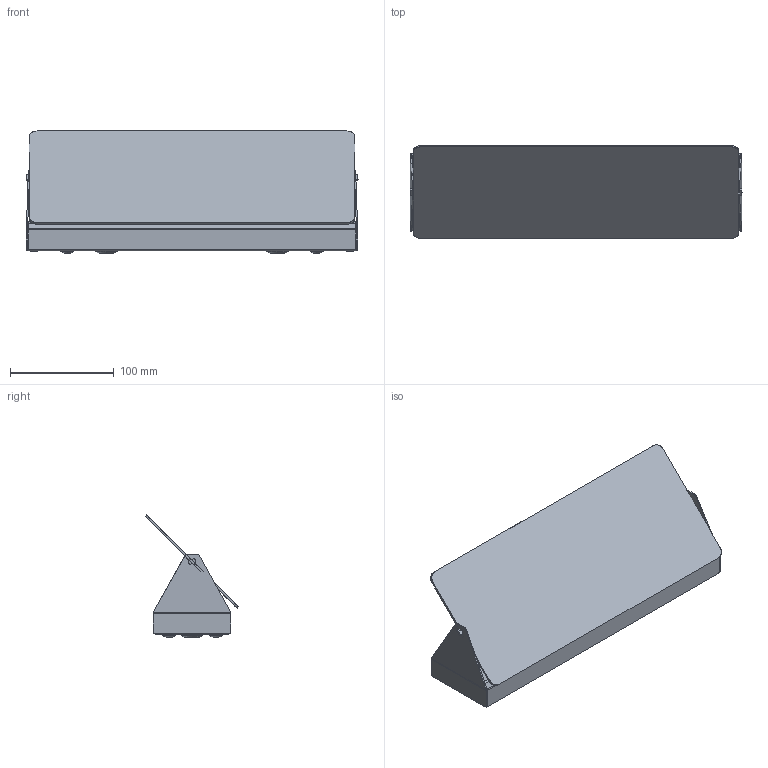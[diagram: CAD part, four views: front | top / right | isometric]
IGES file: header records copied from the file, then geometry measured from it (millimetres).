
Start section: SolidWorks IGES file using analytic representation for surfaces
Global section: file name: C:\Users\tungari.NEMOLIGHTING\Desktop\3D\WALL\3D_APPLIQUE_A_VOLET_PIVOTANT_DOUBLE_LED\DEF\3D_APPLIQUE_A_VOLET_PIVOTANT_DOUBLE_LED.IGS; native system: SolidWorks 2016; preprocessor: SolidWorks 2016; author: tungari; date: 180323.102647; units: millimetre
Bounding box: 320 x 89.8 x 117.6 mm (x, y, z)
Surface area: 254761.6 mm2 (no closed solid volume)
Topology: 0 solids, 0 shells, 309 faces, 3238 edges, 3238 vertices
Faces by surface type: bspline 183, revolution 126
